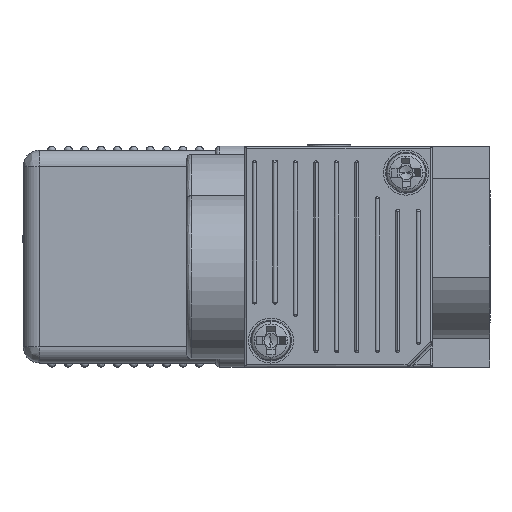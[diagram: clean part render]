
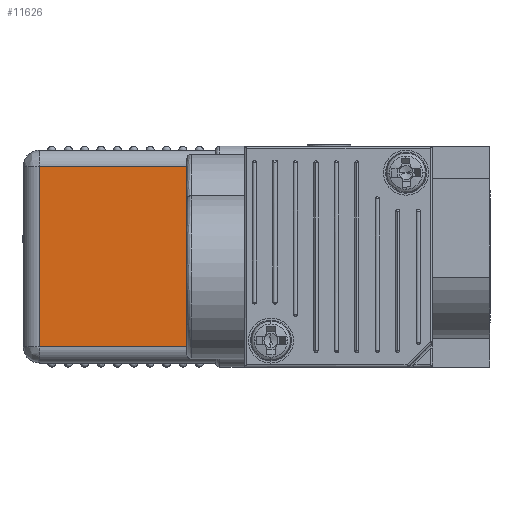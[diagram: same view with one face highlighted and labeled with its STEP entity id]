
A CAD part, left-side view. The second image highlights one B-rep face of the part: STEP entity #11626.
In plain terms, the highlighted planar face has unit normal (-1, 0, 0) as drawn and (1, 0, 0) by its records, which use the part's own axes.
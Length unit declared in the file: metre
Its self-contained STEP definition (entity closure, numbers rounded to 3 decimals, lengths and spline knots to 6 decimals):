
#1065 = CARTESIAN_POINT ( 'NONE',  ( 0.013, -0.0245, 0.0035 ) ) ;
#3095 = DIRECTION ( 'NONE',  ( -1., 0., 0. ) ) ;
#3231 = CARTESIAN_POINT ( 'NONE',  ( 0.013, -0.0245, 0.025 ) ) ;
#3564 = ORIENTED_EDGE ( 'NONE', *, *, #13141, .T. ) ;
#4466 = FACE_OUTER_BOUND ( 'NONE', #25802, .T. ) ;
#4504 = EDGE_CURVE ( 'NONE', #22285, #28147, #22064, .T. ) ;
#4650 = VECTOR ( 'NONE', #14716, 1. ) ;
#4900 = EDGE_CURVE ( 'NONE', #28075, #22285, #4984, .T. ) ;
#4984 = LINE ( 'NONE', #11899, #27530 ) ;
#7092 = ORIENTED_EDGE ( 'NONE', *, *, #4504, .F. ) ;
#7267 = CARTESIAN_POINT ( 'NONE',  ( 0.013, -0.0025, 0.0035 ) ) ;
#9199 = CARTESIAN_POINT ( 'NONE',  ( 0.013, -0.0135, 0.025 ) ) ;
#10807 = CARTESIAN_POINT ( 'NONE',  ( 0.013, -0.0025, 0.01425 ) ) ;
#11090 = AXIS2_PLACEMENT_3D ( 'NONE', #16614, #3095, #18928 ) ;
#11626 = ADVANCED_FACE ( 'NONE', ( #4466 ), #21131, .F. ) ;
#11899 = CARTESIAN_POINT ( 'NONE',  ( 0.013, -0.0135, 0.0035 ) ) ;
#13090 = DIRECTION ( 'NONE',  ( 0., 0., -1. ) ) ;
#13141 = EDGE_CURVE ( 'NONE', #15057, #28147, #26971, .T. ) ;
#13792 = ORIENTED_EDGE ( 'NONE', *, *, #4900, .F. ) ;
#14716 = DIRECTION ( 'NONE',  ( 0., 0., 1. ) ) ;
#15057 = VERTEX_POINT ( 'NONE', #24096 ) ;
#16614 = CARTESIAN_POINT ( 'NONE',  ( 0.013, -0.0245, 0.0035 ) ) ;
#17639 = EDGE_CURVE ( 'NONE', #15057, #28075, #18367, .T. ) ;
#18217 = ORIENTED_EDGE ( 'NONE', *, *, #17639, .F. ) ;
#18367 = LINE ( 'NONE', #10807, #22306 ) ;
#18928 = DIRECTION ( 'NONE',  ( 0., 0., 1. ) ) ;
#21105 = VECTOR ( 'NONE', #27234, 1. ) ;
#21131 = PLANE ( 'NONE',  #11090 ) ;
#22064 = LINE ( 'NONE', #28098, #4650 ) ;
#22285 = VERTEX_POINT ( 'NONE', #1065 ) ;
#22306 = VECTOR ( 'NONE', #13090, 1. ) ;
#24096 = CARTESIAN_POINT ( 'NONE',  ( 0.013, -0.0025, 0.025 ) ) ;
#25802 = EDGE_LOOP ( 'NONE', ( #3564, #7092, #13792, #18217 ) ) ;
#26971 = LINE ( 'NONE', #9199, #21105 ) ;
#27234 = DIRECTION ( 'NONE',  ( 0., -1., 0. ) ) ;
#27530 = VECTOR ( 'NONE', #27624, 1. ) ;
#27624 = DIRECTION ( 'NONE',  ( 0., -1., 0. ) ) ;
#28075 = VERTEX_POINT ( 'NONE', #7267 ) ;
#28098 = CARTESIAN_POINT ( 'NONE',  ( 0.013, -0.0245, 0.01425 ) ) ;
#28147 = VERTEX_POINT ( 'NONE', #3231 ) ;
